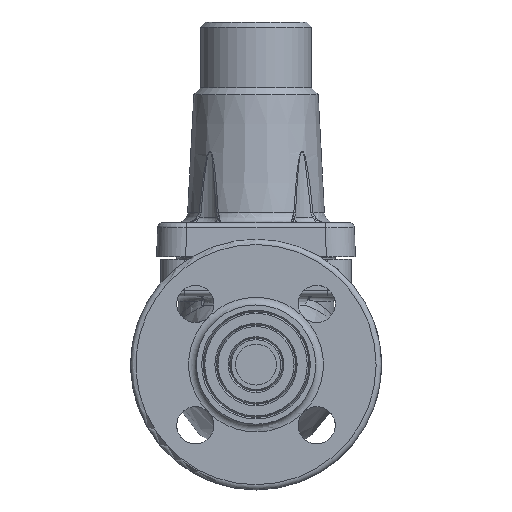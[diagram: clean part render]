
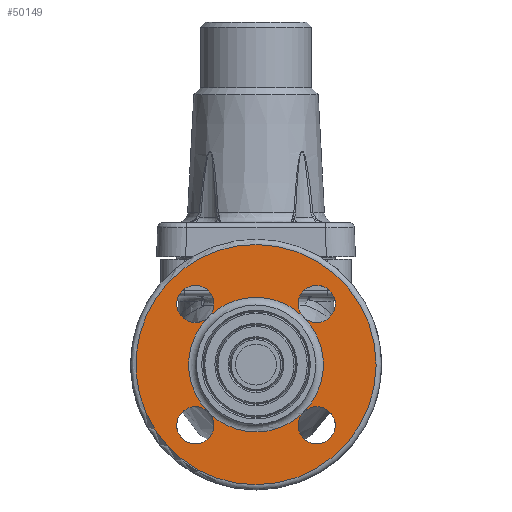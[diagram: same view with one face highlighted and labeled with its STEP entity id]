
A CAD part, left-side view. The second image highlights one B-rep face of the part: STEP entity #50149.
In plain terms, the highlighted planar face has unit normal (-1, 0, 0).
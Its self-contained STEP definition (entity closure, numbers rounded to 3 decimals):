
#49642=CARTESIAN_POINT('',(-62.75,-0.347,-25.498));
#49643=VERTEX_POINT('',#49642);
#49654=CARTESIAN_POINT('',(-62.75,-17.499,-18.548));
#49655=VERTEX_POINT('',#49654);
#49656=CARTESIAN_POINT('',(-62.75,0.,0.));
#49657=DIRECTION('',(1.,0.,0.));
#49658=DIRECTION('',(0.,0.,-1.));
#49659=AXIS2_PLACEMENT_3D('',#49656,#49657,#49658);
#49660=CIRCLE('',#49659,25.5);
#49661=EDGE_CURVE('',#49655,#49643,#49660,.T.);
#49663=CARTESIAN_POINT('',(-62.75,-18.548,-17.499));
#49664=VERTEX_POINT('',#49663);
#49672=CARTESIAN_POINT('',(-62.75,-18.548,17.499));
#49673=VERTEX_POINT('',#49672);
#49674=CARTESIAN_POINT('',(-62.75,0.,0.));
#49675=DIRECTION('',(1.,0.,0.));
#49676=DIRECTION('',(0.,0.,-1.));
#49677=AXIS2_PLACEMENT_3D('',#49674,#49675,#49676);
#49678=CIRCLE('',#49677,25.5);
#49679=EDGE_CURVE('',#49673,#49664,#49678,.T.);
#49681=CARTESIAN_POINT('',(-62.75,-17.499,18.548));
#49682=VERTEX_POINT('',#49681);
#49690=CARTESIAN_POINT('',(-62.75,17.499,18.548));
#49691=VERTEX_POINT('',#49690);
#49692=CARTESIAN_POINT('',(-62.75,0.,0.));
#49693=DIRECTION('',(1.,0.,0.));
#49694=DIRECTION('',(0.,0.,-1.));
#49695=AXIS2_PLACEMENT_3D('',#49692,#49693,#49694);
#49696=CIRCLE('',#49695,25.5);
#49697=EDGE_CURVE('',#49691,#49682,#49696,.T.);
#49699=CARTESIAN_POINT('',(-62.75,18.548,17.499));
#49700=VERTEX_POINT('',#49699);
#49708=CARTESIAN_POINT('',(-62.75,18.548,-17.499));
#49709=VERTEX_POINT('',#49708);
#49710=CARTESIAN_POINT('',(-62.75,0.,0.));
#49711=DIRECTION('',(1.,0.,0.));
#49712=DIRECTION('',(0.,0.,-1.));
#49713=AXIS2_PLACEMENT_3D('',#49710,#49711,#49712);
#49714=CIRCLE('',#49713,25.5);
#49715=EDGE_CURVE('',#49709,#49700,#49714,.T.);
#49717=CARTESIAN_POINT('',(-62.75,17.499,-18.548));
#49718=VERTEX_POINT('',#49717);
#49726=CARTESIAN_POINT('',(-62.75,0.,0.));
#49727=DIRECTION('',(1.,0.,0.));
#49728=DIRECTION('',(0.,0.,-1.));
#49729=AXIS2_PLACEMENT_3D('',#49726,#49727,#49728);
#49730=CIRCLE('',#49729,25.5);
#49731=EDGE_CURVE('',#49643,#49718,#49730,.T.);
#49757=CARTESIAN_POINT('',(-62.75,22.981,-15.931));
#49758=VERTEX_POINT('',#49757);
#49767=CARTESIAN_POINT('',(-62.75,22.981,-22.981));
#49768=DIRECTION('',(-1.,0.,0.));
#49769=DIRECTION('',(0.,0.,1.));
#49770=AXIS2_PLACEMENT_3D('',#49767,#49768,#49769);
#49771=CIRCLE('',#49770,7.05);
#49772=EDGE_CURVE('',#49758,#49718,#49771,.T.);
#49775=CARTESIAN_POINT('',(-62.75,22.981,-22.981));
#49776=DIRECTION('',(-1.,0.,0.));
#49777=DIRECTION('',(0.,0.,1.));
#49778=AXIS2_PLACEMENT_3D('',#49775,#49776,#49777);
#49779=CIRCLE('',#49778,7.05);
#49780=EDGE_CURVE('',#49709,#49758,#49779,.T.);
#50051=CARTESIAN_POINT('',(-62.75,-0.397,45.498));
#50052=VERTEX_POINT('',#50051);
#50060=CARTESIAN_POINT('',(-62.75,-0.,-45.5));
#50061=VERTEX_POINT('',#50060);
#50062=CARTESIAN_POINT('',(-62.75,0.,0.));
#50063=DIRECTION('',(-1.,-0.,-0.));
#50064=DIRECTION('',(0.,0.,-1.));
#50065=AXIS2_PLACEMENT_3D('',#50062,#50063,#50064);
#50066=CIRCLE('',#50065,45.5);
#50067=EDGE_CURVE('',#50061,#50052,#50066,.T.);
#50069=CARTESIAN_POINT('',(-62.75,0.,0.));
#50070=DIRECTION('',(-1.,-0.,-0.));
#50071=DIRECTION('',(0.,0.,-1.));
#50072=AXIS2_PLACEMENT_3D('',#50069,#50070,#50071);
#50073=CIRCLE('',#50072,45.5);
#50074=EDGE_CURVE('',#50052,#50061,#50073,.T.);
#50083=CARTESIAN_POINT('',(-62.75,0.,0.));
#50084=DIRECTION('',(1.,0.,0.));
#50085=DIRECTION('',(0.,0.,1.));
#50086=AXIS2_PLACEMENT_3D('',#50083,#50084,#50085);
#50087=PLANE('',#50086);
#50088=ORIENTED_EDGE('',*,*,#50067,.T.);
#50089=ORIENTED_EDGE('',*,*,#50074,.T.);
#50090=EDGE_LOOP('',(#50088,#50089));
#50091=FACE_BOUND('',#50090,.T.);
#50092=CARTESIAN_POINT('',(-62.75,-22.981,15.931));
#50093=VERTEX_POINT('',#50092);
#50094=CARTESIAN_POINT('',(-62.75,-22.981,22.981));
#50095=DIRECTION('',(-1.,0.,0.));
#50096=DIRECTION('',(0.,0.,1.));
#50097=AXIS2_PLACEMENT_3D('',#50094,#50095,#50096);
#50098=CIRCLE('',#50097,7.05);
#50099=EDGE_CURVE('',#50093,#49682,#50098,.T.);
#50100=ORIENTED_EDGE('',*,*,#50099,.F.);
#50101=CARTESIAN_POINT('',(-62.75,-22.981,22.981));
#50102=DIRECTION('',(-1.,0.,0.));
#50103=DIRECTION('',(0.,0.,1.));
#50104=AXIS2_PLACEMENT_3D('',#50101,#50102,#50103);
#50105=CIRCLE('',#50104,7.05);
#50106=EDGE_CURVE('',#49673,#50093,#50105,.T.);
#50107=ORIENTED_EDGE('',*,*,#50106,.F.);
#50108=ORIENTED_EDGE('',*,*,#49679,.T.);
#50109=CARTESIAN_POINT('',(-62.75,-15.931,-22.981));
#50110=VERTEX_POINT('',#50109);
#50111=CARTESIAN_POINT('',(-62.75,-22.981,-22.981));
#50112=DIRECTION('',(-1.,0.,0.));
#50113=DIRECTION('',(0.,0.,1.));
#50114=AXIS2_PLACEMENT_3D('',#50111,#50112,#50113);
#50115=CIRCLE('',#50114,7.05);
#50116=EDGE_CURVE('',#50110,#49664,#50115,.T.);
#50117=ORIENTED_EDGE('',*,*,#50116,.F.);
#50118=CARTESIAN_POINT('',(-62.75,-22.981,-22.981));
#50119=DIRECTION('',(-1.,0.,0.));
#50120=DIRECTION('',(0.,0.,1.));
#50121=AXIS2_PLACEMENT_3D('',#50118,#50119,#50120);
#50122=CIRCLE('',#50121,7.05);
#50123=EDGE_CURVE('',#49655,#50110,#50122,.T.);
#50124=ORIENTED_EDGE('',*,*,#50123,.F.);
#50125=ORIENTED_EDGE('',*,*,#49661,.T.);
#50126=ORIENTED_EDGE('',*,*,#49731,.T.);
#50127=ORIENTED_EDGE('',*,*,#49772,.F.);
#50128=ORIENTED_EDGE('',*,*,#49780,.F.);
#50129=ORIENTED_EDGE('',*,*,#49715,.T.);
#50130=CARTESIAN_POINT('',(-62.75,15.931,22.981));
#50131=VERTEX_POINT('',#50130);
#50132=CARTESIAN_POINT('',(-62.75,22.981,22.981));
#50133=DIRECTION('',(-1.,0.,0.));
#50134=DIRECTION('',(0.,0.,1.));
#50135=AXIS2_PLACEMENT_3D('',#50132,#50133,#50134);
#50136=CIRCLE('',#50135,7.05);
#50137=EDGE_CURVE('',#50131,#49700,#50136,.T.);
#50138=ORIENTED_EDGE('',*,*,#50137,.F.);
#50139=CARTESIAN_POINT('',(-62.75,22.981,22.981));
#50140=DIRECTION('',(-1.,0.,0.));
#50141=DIRECTION('',(0.,0.,1.));
#50142=AXIS2_PLACEMENT_3D('',#50139,#50140,#50141);
#50143=CIRCLE('',#50142,7.05);
#50144=EDGE_CURVE('',#49691,#50131,#50143,.T.);
#50145=ORIENTED_EDGE('',*,*,#50144,.F.);
#50146=ORIENTED_EDGE('',*,*,#49697,.T.);
#50147=EDGE_LOOP('',(#50100,#50107,#50108,#50117,#50124,#50125,#50126,#50127,#50128,#50129,#50138,#50145,#50146));
#50148=FACE_BOUND('',#50147,.T.);
#50149=ADVANCED_FACE('',(#50091,#50148),#50087,.F.);
